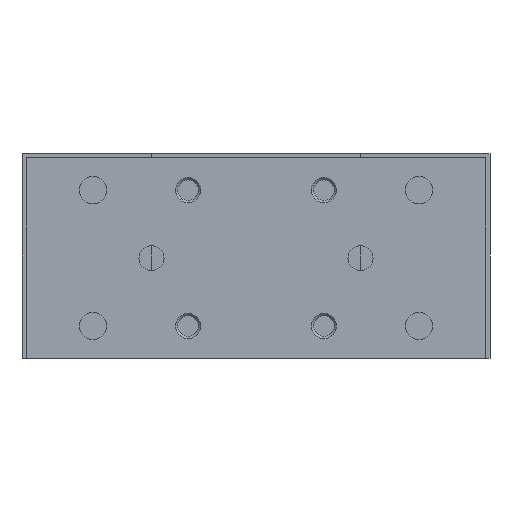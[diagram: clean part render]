
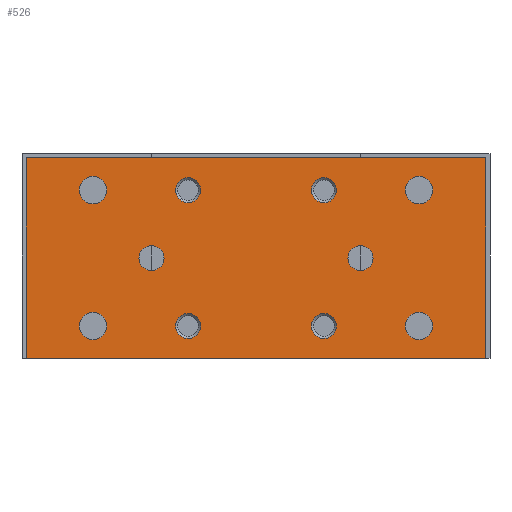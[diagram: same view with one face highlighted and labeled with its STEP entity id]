
A CAD part, left-side view. The second image highlights one B-rep face of the part: STEP entity #526.
In plain terms, the highlighted planar face has unit normal (-1, 0, 0).
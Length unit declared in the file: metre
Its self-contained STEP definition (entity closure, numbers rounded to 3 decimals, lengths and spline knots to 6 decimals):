
#526 = ADVANCED_FACE( '', ( #1285, #1286, #1287, #1288, #1289, #1290, #1291, #1292, #1293, #1294, #1295 ), #1296, .F. );
#1285 = FACE_BOUND( '', #2353, .T. );
#1286 = FACE_BOUND( '', #2354, .T. );
#1287 = FACE_BOUND( '', #2355, .T. );
#1288 = FACE_BOUND( '', #2356, .T. );
#1289 = FACE_BOUND( '', #2357, .T. );
#1290 = FACE_BOUND( '', #2358, .T. );
#1291 = FACE_BOUND( '', #2359, .T. );
#1292 = FACE_BOUND( '', #2360, .T. );
#1293 = FACE_BOUND( '', #2361, .T. );
#1294 = FACE_BOUND( '', #2362, .T. );
#1295 = FACE_OUTER_BOUND( '', #2363, .T. );
#1296 = PLANE( '', #2364 );
#2353 = EDGE_LOOP( '', ( #3751 ) );
#2354 = EDGE_LOOP( '', ( #3752 ) );
#2355 = EDGE_LOOP( '', ( #3753 ) );
#2356 = EDGE_LOOP( '', ( #3754 ) );
#2357 = EDGE_LOOP( '', ( #3755 ) );
#2358 = EDGE_LOOP( '', ( #3756 ) );
#2359 = EDGE_LOOP( '', ( #3757 ) );
#2360 = EDGE_LOOP( '', ( #3758 ) );
#2361 = EDGE_LOOP( '', ( #3759 ) );
#2362 = EDGE_LOOP( '', ( #3760 ) );
#2363 = EDGE_LOOP( '', ( #3761, #3762, #3763, #3764 ) );
#2364 = AXIS2_PLACEMENT_3D( '', #3765, #3766, #3767 );
#3751 = ORIENTED_EDGE( '', *, *, #5213, .T. );
#3752 = ORIENTED_EDGE( '', *, *, #5214, .T. );
#3753 = ORIENTED_EDGE( '', *, *, #5215, .T. );
#3754 = ORIENTED_EDGE( '', *, *, #5216, .T. );
#3755 = ORIENTED_EDGE( '', *, *, #5217, .F. );
#3756 = ORIENTED_EDGE( '', *, *, #5218, .T. );
#3757 = ORIENTED_EDGE( '', *, *, #4924, .T. );
#3758 = ORIENTED_EDGE( '', *, *, #5219, .F. );
#3759 = ORIENTED_EDGE( '', *, *, #5220, .F. );
#3760 = ORIENTED_EDGE( '', *, *, #5221, .T. );
#3761 = ORIENTED_EDGE( '', *, *, #5222, .T. );
#3762 = ORIENTED_EDGE( '', *, *, #5223, .T. );
#3763 = ORIENTED_EDGE( '', *, *, #5003, .T. );
#3764 = ORIENTED_EDGE( '', *, *, #5224, .T. );
#3765 = CARTESIAN_POINT( '', ( -0.07925, -0.055, -0.049 ) );
#3766 = DIRECTION( '', ( 1., 0., 0. ) );
#3767 = DIRECTION( '', ( 0., 1., 0. ) );
#4924 = EDGE_CURVE( '', #5651, #5651, #5652, .T. );
#5003 = EDGE_CURVE( '', #5783, #5781, #5784, .T. );
#5213 = EDGE_CURVE( '', #6108, #6108, #6109, .T. );
#5214 = EDGE_CURVE( '', #6110, #6110, #6111, .T. );
#5215 = EDGE_CURVE( '', #6112, #6112, #6113, .T. );
#5216 = EDGE_CURVE( '', #6114, #6114, #6115, .T. );
#5217 = EDGE_CURVE( '', #6116, #6116, #6117, .T. );
#5218 = EDGE_CURVE( '', #6118, #6118, #6119, .T. );
#5219 = EDGE_CURVE( '', #6120, #6120, #6121, .T. );
#5220 = EDGE_CURVE( '', #6122, #6122, #6123, .T. );
#5221 = EDGE_CURVE( '', #6124, #6124, #6125, .T. );
#5222 = EDGE_CURVE( '', #6126, #6127, #6128, .T. );
#5223 = EDGE_CURVE( '', #6127, #5783, #6129, .T. );
#5224 = EDGE_CURVE( '', #5781, #6126, #6130, .T. );
#5651 = VERTEX_POINT( '', #6697 );
#5652 = CIRCLE( '', #6698, 0.003 );
#5781 = VERTEX_POINT( '', #6845 );
#5783 = VERTEX_POINT( '', #6848 );
#5784 = LINE( '', #6849, #6850 );
#6108 = VERTEX_POINT( '', #7305 );
#6109 = CIRCLE( '', #7306, 0.0033 );
#6110 = VERTEX_POINT( '', #7307 );
#6111 = CIRCLE( '', #7308, 0.0033 );
#6112 = VERTEX_POINT( '', #7309 );
#6113 = CIRCLE( '', #7310, 0.0033 );
#6114 = VERTEX_POINT( '', #7311 );
#6115 = CIRCLE( '', #7312, 0.0033 );
#6116 = VERTEX_POINT( '', #7313 );
#6117 = CIRCLE( '', #7314, 0.003 );
#6118 = VERTEX_POINT( '', #7315 );
#6119 = CIRCLE( '', #7316, 0.003 );
#6120 = VERTEX_POINT( '', #7317 );
#6121 = CIRCLE( '', #7318, 0.003 );
#6122 = VERTEX_POINT( '', #7319 );
#6123 = CIRCLE( '', #7320, 0.003 );
#6124 = VERTEX_POINT( '', #7321 );
#6125 = CIRCLE( '', #7322, 0.003 );
#6126 = VERTEX_POINT( '', #7323 );
#6127 = VERTEX_POINT( '', #7324 );
#6128 = LINE( '', #7325, #7326 );
#6129 = LINE( '', #7327, #7328 );
#6130 = LINE( '', #7329, #7330 );
#6697 = CARTESIAN_POINT( '', ( -0.07925, -0.01325, -0.04125 ) );
#6698 = AXIS2_PLACEMENT_3D( '', #7946, #7947, #7948 );
#6845 = CARTESIAN_POINT( '', ( -0.07925, 0.055, -0.049 ) );
#6848 = CARTESIAN_POINT( '', ( -0.07925, 0.055, -0.001 ) );
#6849 = CARTESIAN_POINT( '', ( -0.07925, 0.055, -0.001 ) );
#6850 = VECTOR( '', #8073, 1. );
#7305 = CARTESIAN_POINT( '', ( -0.07925, -0.0357, -0.04125 ) );
#7306 = AXIS2_PLACEMENT_3D( '', #8352, #8353, #8354 );
#7307 = CARTESIAN_POINT( '', ( -0.07925, 0.0423, -0.04125 ) );
#7308 = AXIS2_PLACEMENT_3D( '', #8355, #8356, #8357 );
#7309 = CARTESIAN_POINT( '', ( -0.07925, -0.0357, -0.00875 ) );
#7310 = AXIS2_PLACEMENT_3D( '', #8358, #8359, #8360 );
#7311 = CARTESIAN_POINT( '', ( -0.07925, 0.0423, -0.00875 ) );
#7312 = AXIS2_PLACEMENT_3D( '', #8361, #8362, #8363 );
#7313 = CARTESIAN_POINT( '', ( -0.07925, -0.025, -0.022 ) );
#7314 = AXIS2_PLACEMENT_3D( '', #8364, #8365, #8366 );
#7315 = CARTESIAN_POINT( '', ( -0.07925, 0.025, -0.022 ) );
#7316 = AXIS2_PLACEMENT_3D( '', #8367, #8368, #8369 );
#7317 = CARTESIAN_POINT( '', ( -0.07925, 0.01325, -0.04125 ) );
#7318 = AXIS2_PLACEMENT_3D( '', #8370, #8371, #8372 );
#7319 = CARTESIAN_POINT( '', ( -0.07925, -0.01325, -0.00875 ) );
#7320 = AXIS2_PLACEMENT_3D( '', #8373, #8374, #8375 );
#7321 = CARTESIAN_POINT( '', ( -0.07925, 0.01325, -0.00875 ) );
#7322 = AXIS2_PLACEMENT_3D( '', #8376, #8377, #8378 );
#7323 = CARTESIAN_POINT( '', ( -0.07925, -0.055, -0.049 ) );
#7324 = CARTESIAN_POINT( '', ( -0.07925, -0.055, -0.001 ) );
#7325 = CARTESIAN_POINT( '', ( -0.07925, -0.055, -0.049 ) );
#7326 = VECTOR( '', #8379, 1. );
#7327 = CARTESIAN_POINT( '', ( -0.07925, -0.055, -0.001 ) );
#7328 = VECTOR( '', #8380, 1. );
#7329 = CARTESIAN_POINT( '', ( -0.07925, 0.055, -0.049 ) );
#7330 = VECTOR( '', #8381, 1. );
#7946 = CARTESIAN_POINT( '', ( -0.07925, -0.01625, -0.04125 ) );
#7947 = DIRECTION( '', ( 1., 0., 0. ) );
#7948 = DIRECTION( '', ( 0., 1., 0. ) );
#8073 = DIRECTION( '', ( 0., 0., -1. ) );
#8352 = CARTESIAN_POINT( '', ( -0.07925, -0.039, -0.04125 ) );
#8353 = DIRECTION( '', ( 1., 0., 0. ) );
#8354 = DIRECTION( '', ( 0., 1., 0. ) );
#8355 = CARTESIAN_POINT( '', ( -0.07925, 0.039, -0.04125 ) );
#8356 = DIRECTION( '', ( 1., 0., 0. ) );
#8357 = DIRECTION( '', ( 0., 1., 0. ) );
#8358 = CARTESIAN_POINT( '', ( -0.07925, -0.039, -0.00875 ) );
#8359 = DIRECTION( '', ( 1., 0., 0. ) );
#8360 = DIRECTION( '', ( 0., 1., 0. ) );
#8361 = CARTESIAN_POINT( '', ( -0.07925, 0.039, -0.00875 ) );
#8362 = DIRECTION( '', ( 1., 0., 0. ) );
#8363 = DIRECTION( '', ( 0., 1., 0. ) );
#8364 = CARTESIAN_POINT( '', ( -0.07925, -0.025, -0.025 ) );
#8365 = DIRECTION( '', ( -1., 0., 0. ) );
#8366 = DIRECTION( '', ( 0., 0., 1. ) );
#8367 = CARTESIAN_POINT( '', ( -0.07925, 0.025, -0.025 ) );
#8368 = DIRECTION( '', ( 1., 0., 0. ) );
#8369 = DIRECTION( '', ( 0., 0., 1. ) );
#8370 = CARTESIAN_POINT( '', ( -0.07925, 0.01625, -0.04125 ) );
#8371 = DIRECTION( '', ( -1., 0., 0. ) );
#8372 = DIRECTION( '', ( 0., -1., 0. ) );
#8373 = CARTESIAN_POINT( '', ( -0.07925, -0.01625, -0.00875 ) );
#8374 = DIRECTION( '', ( -1., 0., 0. ) );
#8375 = DIRECTION( '', ( 0., 1., 0. ) );
#8376 = CARTESIAN_POINT( '', ( -0.07925, 0.01625, -0.00875 ) );
#8377 = DIRECTION( '', ( 1., 0., 0. ) );
#8378 = DIRECTION( '', ( 0., -1., 0. ) );
#8379 = DIRECTION( '', ( 0., 0., 1. ) );
#8380 = DIRECTION( '', ( 0., 1., 0. ) );
#8381 = DIRECTION( '', ( 0., -1., 0. ) );
